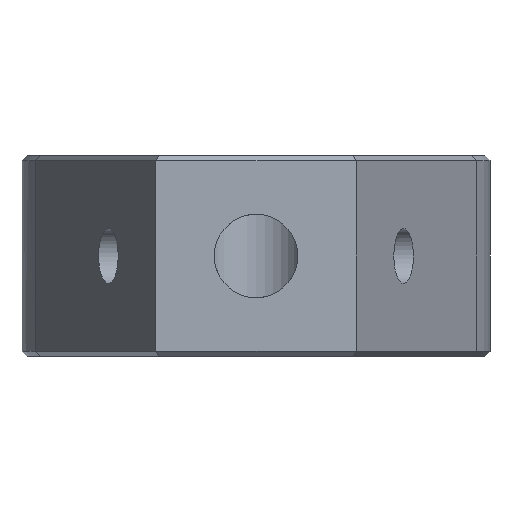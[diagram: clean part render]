
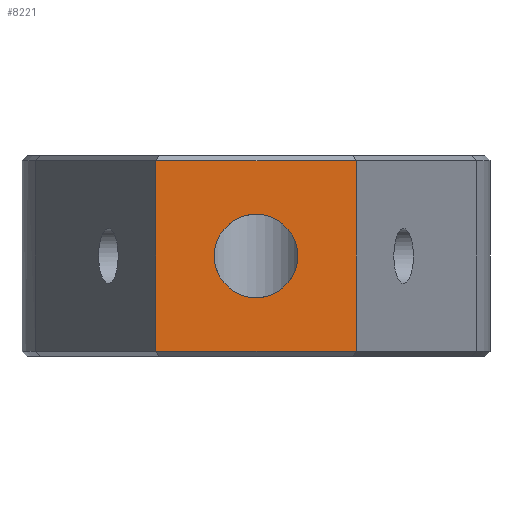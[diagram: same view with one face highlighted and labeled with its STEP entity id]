
A CAD part, front view. The second image highlights one B-rep face of the part: STEP entity #8221.
In plain terms, the highlighted planar face has unit normal (0, -1, 0).
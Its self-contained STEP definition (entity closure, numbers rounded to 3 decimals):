
#383 = ORIENTED_EDGE ( 'NONE', *, *, #11492, .T. ) ;
#1255 = EDGE_CURVE ( 'NONE', #13502, #3492, #2410, .T. ) ;
#1318 = EDGE_LOOP ( 'NONE', ( #5412, #6861 ) ) ;
#1525 = ORIENTED_EDGE ( 'NONE', *, *, #7799, .T. ) ;
#1673 = DIRECTION ( 'NONE',  ( 0., -1., 0. ) ) ;
#2410 = CIRCLE ( 'NONE', #5283, 2.5 ) ;
#2817 = CARTESIAN_POINT ( 'NONE',  ( 0., -25., -8.5 ) ) ;
#3492 = VERTEX_POINT ( 'NONE', #10752 ) ;
#3579 = DIRECTION ( 'NONE',  ( 1., 0., 0. ) ) ;
#3770 = CARTESIAN_POINT ( 'NONE',  ( -6., -25., -11.7 ) ) ;
#3815 = AXIS2_PLACEMENT_3D ( 'NONE', #10679, #1673, #6291 ) ;
#4471 = FACE_BOUND ( 'NONE', #1318, .T. ) ;
#4962 = LINE ( 'NONE', #8098, #10601 ) ;
#5283 = AXIS2_PLACEMENT_3D ( 'NONE', #9098, #13132, #11042 ) ;
#5316 = DIRECTION ( 'NONE',  ( 0., 0., -1. ) ) ;
#5412 = ORIENTED_EDGE ( 'NONE', *, *, #10575, .F. ) ;
#5562 = LINE ( 'NONE', #9996, #6222 ) ;
#5746 = DIRECTION ( 'NONE',  ( -1., 0., 0. ) ) ;
#6222 = VECTOR ( 'NONE', #3579, 1000. ) ;
#6291 = DIRECTION ( 'NONE',  ( 0., 0., 1. ) ) ;
#6445 = VERTEX_POINT ( 'NONE', #3770 ) ;
#6766 = EDGE_CURVE ( 'NONE', #6445, #10380, #5562, .T. ) ;
#6773 = CIRCLE ( 'NONE', #3815, 2.5 ) ;
#6861 = ORIENTED_EDGE ( 'NONE', *, *, #1255, .F. ) ;
#7230 = EDGE_LOOP ( 'NONE', ( #383, #1525, #7895, #10186 ) ) ;
#7668 = CARTESIAN_POINT ( 'NONE',  ( 6., -25., -0.3 ) ) ;
#7799 = EDGE_CURVE ( 'NONE', #9402, #8079, #10794, .T. ) ;
#7836 = CARTESIAN_POINT ( 'NONE',  ( 6., -25., -0.3 ) ) ;
#7895 = ORIENTED_EDGE ( 'NONE', *, *, #12455, .F. ) ;
#8079 = VERTEX_POINT ( 'NONE', #10377 ) ;
#8098 = CARTESIAN_POINT ( 'NONE',  ( -6., -25., -12. ) ) ;
#8221 = ADVANCED_FACE ( 'NONE', ( #4471, #10274 ), #8503, .F. ) ;
#8319 = LINE ( 'NONE', #10962, #8646 ) ;
#8503 = PLANE ( 'NONE',  #10072 ) ;
#8646 = VECTOR ( 'NONE', #10881, 1000. ) ;
#9098 = CARTESIAN_POINT ( 'NONE',  ( 0., -25., -6. ) ) ;
#9402 = VERTEX_POINT ( 'NONE', #7668 ) ;
#9996 = CARTESIAN_POINT ( 'NONE',  ( 6., -25., -11.7 ) ) ;
#10072 = AXIS2_PLACEMENT_3D ( 'NONE', #11596, #11738, #5316 ) ;
#10186 = ORIENTED_EDGE ( 'NONE', *, *, #6766, .T. ) ;
#10274 = FACE_OUTER_BOUND ( 'NONE', #7230, .T. ) ;
#10377 = CARTESIAN_POINT ( 'NONE',  ( -6., -25., -0.3 ) ) ;
#10380 = VERTEX_POINT ( 'NONE', #12160 ) ;
#10575 = EDGE_CURVE ( 'NONE', #3492, #13502, #6773, .T. ) ;
#10601 = VECTOR ( 'NONE', #10956, 1000. ) ;
#10679 = CARTESIAN_POINT ( 'NONE',  ( 0., -25., -6. ) ) ;
#10752 = CARTESIAN_POINT ( 'NONE',  ( 0., -25., -3.5 ) ) ;
#10794 = LINE ( 'NONE', #7836, #13267 ) ;
#10881 = DIRECTION ( 'NONE',  ( 0., 0., 1. ) ) ;
#10956 = DIRECTION ( 'NONE',  ( 0., 0., 1. ) ) ;
#10962 = CARTESIAN_POINT ( 'NONE',  ( 6., -25., -12. ) ) ;
#11042 = DIRECTION ( 'NONE',  ( 0., 0., 1. ) ) ;
#11492 = EDGE_CURVE ( 'NONE', #10380, #9402, #8319, .T. ) ;
#11596 = CARTESIAN_POINT ( 'NONE',  ( 6., -25., -12. ) ) ;
#11738 = DIRECTION ( 'NONE',  ( 0., 1., 0. ) ) ;
#12160 = CARTESIAN_POINT ( 'NONE',  ( 6., -25., -11.7 ) ) ;
#12455 = EDGE_CURVE ( 'NONE', #6445, #8079, #4962, .T. ) ;
#13132 = DIRECTION ( 'NONE',  ( 0., -1., 0. ) ) ;
#13267 = VECTOR ( 'NONE', #5746, 1000. ) ;
#13502 = VERTEX_POINT ( 'NONE', #2817 ) ;
